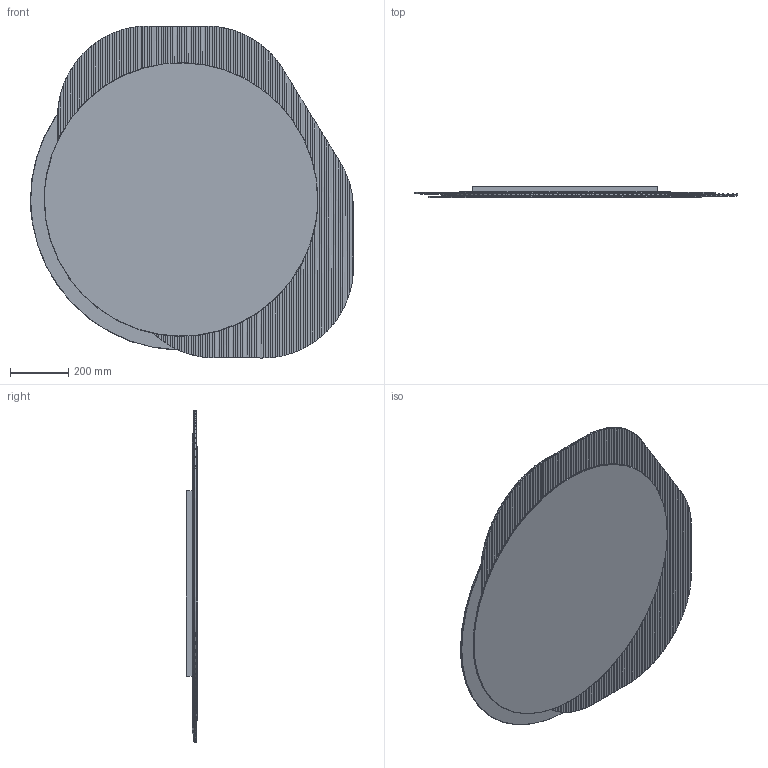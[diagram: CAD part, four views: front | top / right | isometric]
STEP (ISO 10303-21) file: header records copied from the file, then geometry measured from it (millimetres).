
FILE_DESCRIPTION(/* description */ (''),/* implementation_level */ '2;1');
FILE_NAME(/* name */ '3D_SHI~1',/* time_stamp */ '2024-04-29T18:36:24+02:00',/* author */ (''),/* organization */ (''),/* preprocessor_version */ 'ST-DEVELOPER v16.5',/* originating_system */ '',/* authorisation */ '');
FILE_SCHEMA (('AUTOMOTIVE_DESIGN'));
Length unit declared in the file: millimetre
Products named in the file (1): Document
Bounding box: 1109.19 x 38.55 x 1140 mm (x, y, z)
Volume: 15994076.4 mm3; surface area: 5414310.4 mm2
Topology: 4 solids, 4 shells, 549 faces, 1615 edges, 1074 vertices
Faces by surface type: bspline 532, plane 17
Entity records: 22560 total; most frequent: CARTESIAN_POINT 14166, ORIENTED_EDGE 3230, EDGE_CURVE 1615, VERTEX_POINT 1074, B_SPLINE_CURVE_WITH_KNOTS 703, EDGE_LOOP 551, ADVANCED_FACE 549, FACE_OUTER_BOUND 549
